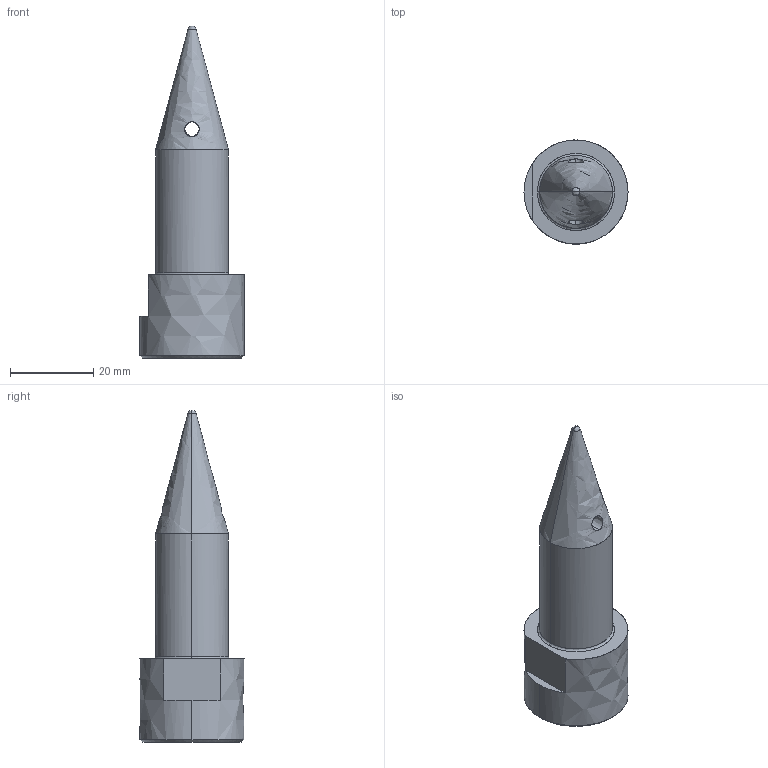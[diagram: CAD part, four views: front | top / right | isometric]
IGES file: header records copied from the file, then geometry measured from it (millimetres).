
Global section: file name: E:\UnigraphicsGraphicData\MISUMI_PRESS-PARTS\IGES\3d_sdklh25-p17.50-b30_02966_r00.igs; native system: NX V5.0; preprocessor: UGS NX IGES V5.0; author: MISUMI; date: 20110105.162516; units: millimetre
Bounding box: 25 x 25.02 x 79.79 mm (x, y, z)
Surface area: 4983.6 mm2 (no closed solid volume)
Topology: 0 solids, 0 shells, 18 faces, 116 edges, 114 vertices
Faces by surface type: bspline 18
